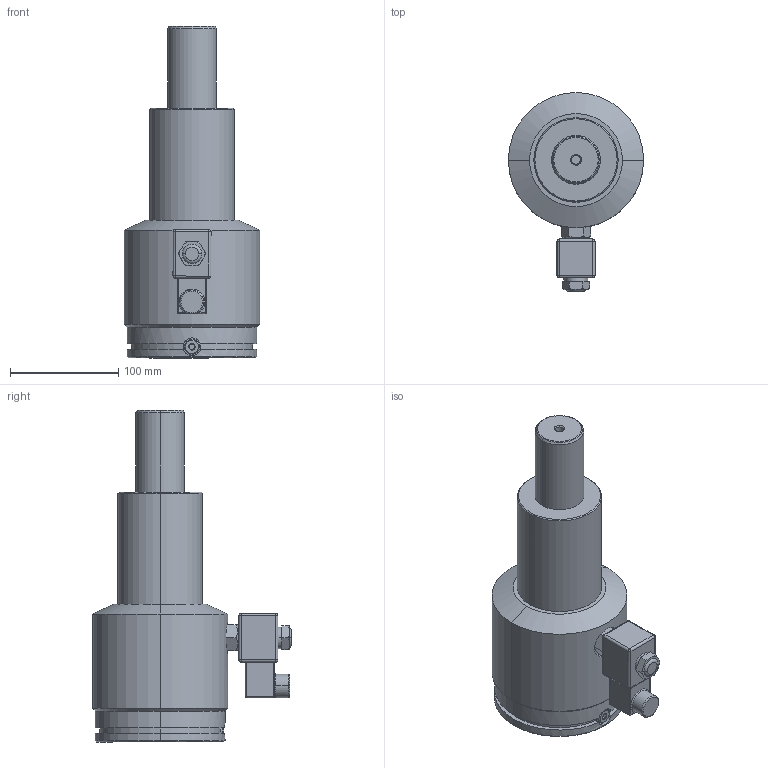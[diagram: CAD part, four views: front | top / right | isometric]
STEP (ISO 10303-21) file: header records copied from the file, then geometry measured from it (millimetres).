
FILE_DESCRIPTION(('CATIA V5 STEP Exchange'),'2;1');
FILE_NAME('W:\CATALOGO GENERAL 2015\CATIA\CILINDRO PARADA MONOCUERPO\TPMCM2400x75.stp','2023-09-26T05:22:53+00:00',('none'),('none'),'CATIA Version 5 Release 17 (IN-10)','CATIA V5 STEP AP203','none');
FILE_SCHEMA(('CONFIG_CONTROL_DESIGN'));
Length unit declared in the file: millimetre
Products named in the file (1): Stop-cylinder monolitic
Assembly tree (5 placements, depth 2):
  Stop-cylinder monolitic
    #56
    #2172
    #2324
    #2638
    #6180
Bounding box: 125 x 183.91 x 307 mm (x, y, z)
Volume: 2188410.7 mm3; surface area: 147391.3 mm2
Topology: 9 solids, 9 shells, 293 faces, 650 edges, 361 vertices
Faces by surface type: cone 84, cylinder 76, plane 68, torus 33, revolution 18, sphere 12, bspline 2
Entity records: 7917 total; most frequent: CARTESIAN_POINT 2055, ORIENTED_EDGE 1232, DIRECTION 975, EDGE_CURVE 616, AXIS2_PLACEMENT_3D 503, VERTEX_POINT 361, EDGE_LOOP 313, ADVANCED_FACE 293
